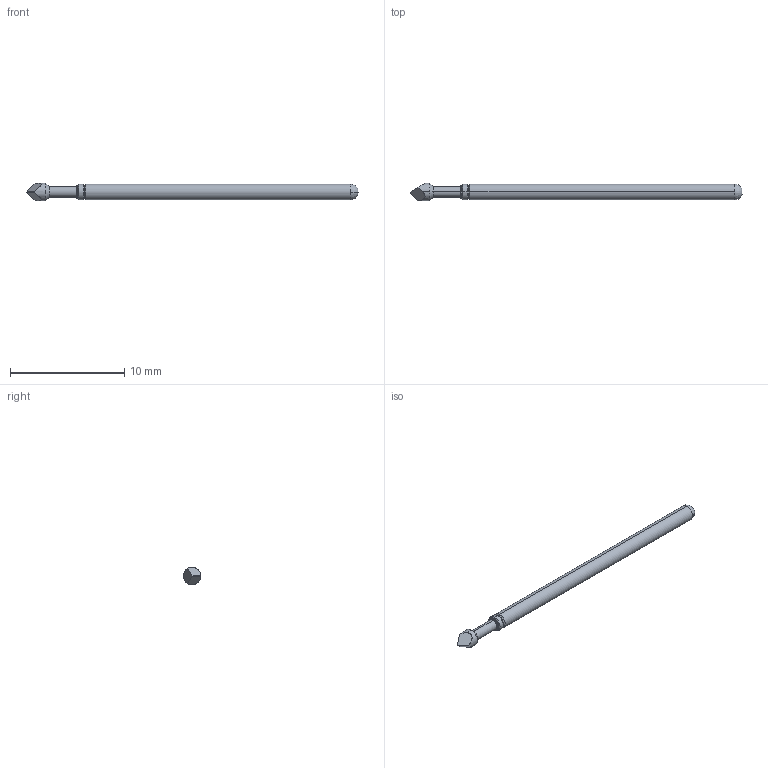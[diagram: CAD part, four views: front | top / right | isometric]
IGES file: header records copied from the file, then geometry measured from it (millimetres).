
Start section: SolidWorks IGES file using analytic representation for surfaces
Global section: file name: Z:\probe solid model mockups\Solidworks models\LTP-25\LTP-25T RECD.IGS; native system: SolidWorks 2006 by SolidWorks Corporation; preprocessor: SolidWorks 2006 by SolidWorks Corporation; author: tsakatani; date: 071214.143358; units: inch
Bounding box: 29.08 x 1.52 x 1.52 mm (x, y, z)
Surface area: 122.4 mm2 (no closed solid volume)
Topology: 0 solids, 0 shells, 25 faces, 184 edges, 184 vertices
Faces by surface type: revolution 16, bspline 9
